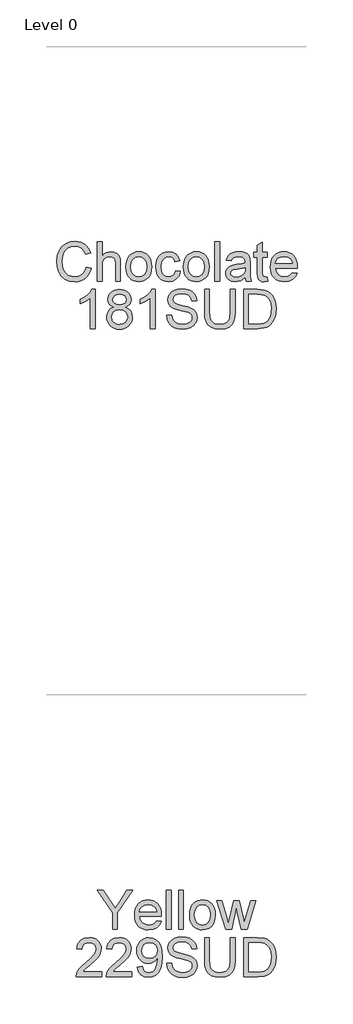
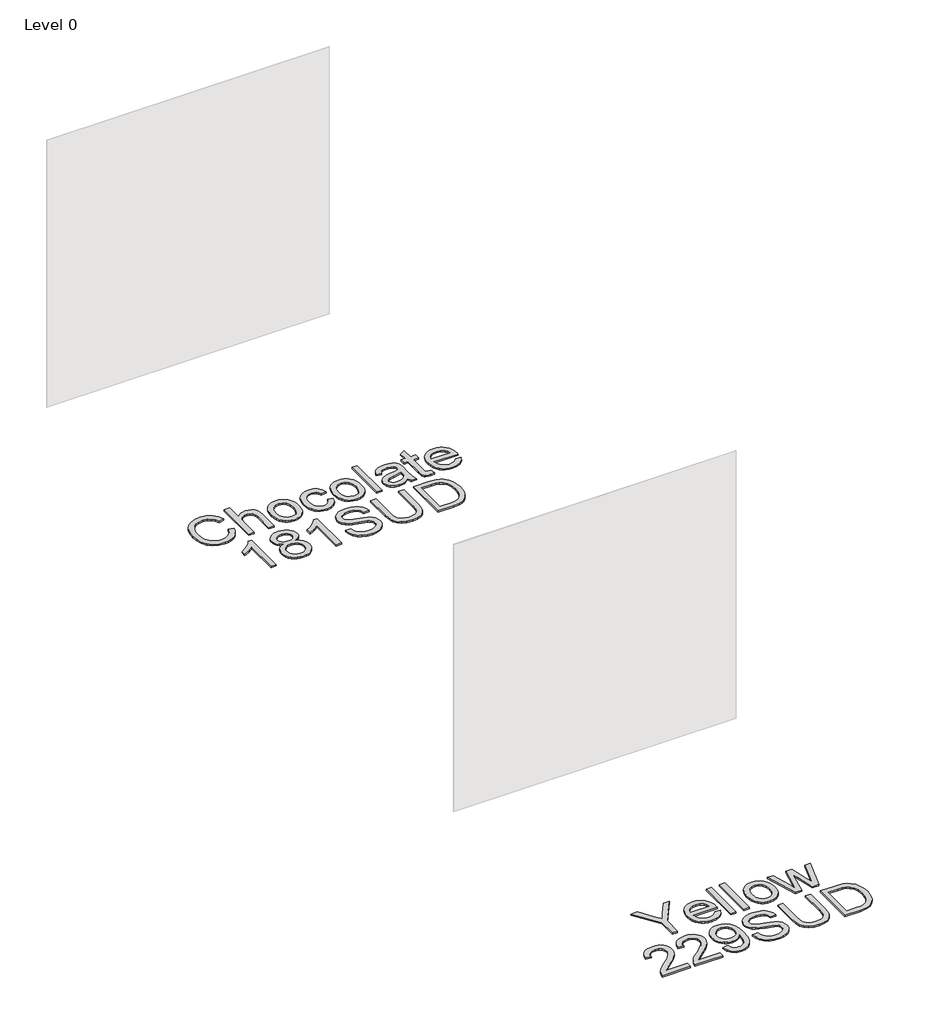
# One storey, part 9 of 37: 2 proxies.
"""IFC4 building model written with IfcOpenShell, lengths in millimetres."""

import ifcopenshell
import ifcopenshell.guid

model = None  # the IFC model being written
_history = None  # IfcOwnerHistory: only IFC2X3 demands one
_inside = {}  # id of a spatial element -> (the spatial element, [elements in it])
_under = {}  # id of a project, library or spatial element -> (it, [spatial elements below it])
_declared = {}  # id of a project -> (the project, [libraries it declares])
_typed = {}  # id of a type object -> (the type object, [elements of that type])
_made_of = {}  # id of a material, layer set ... -> (it, [elements and type objects made of it])


def new_model(schema):
    """Start an empty IFC model of exactly this schema.

    Asked for "IFC4X3", IfcOpenShell would pick the latest addendum, in which some entities
    have other attributes; the version numbers below select the first issue.
    IFC2X3 requires an IfcOwnerHistory on every rooted entity: one is made here for all.
    """
    global model, _history
    if schema == "IFC4X3":
        model = ifcopenshell.file(schema_version=(4, 3, 0, 0))
    else:
        model = ifcopenshell.file(schema=schema)
    _inside.clear()
    _under.clear()
    _declared.clear()
    _typed.clear()
    _made_of.clear()
    _history = None
    if model.schema == "IFC2X3":
        org = make("IfcOrganization", Name="unknown")
        user = make(
            "IfcPersonAndOrganization",
            ThePerson=make("IfcPerson", FamilyName="unknown"),
            TheOrganization=org,
        )
        app = make(
            "IfcApplication",
            ApplicationDeveloper=org,
            Version="unknown",
            ApplicationFullName="unknown",
            ApplicationIdentifier="unknown",
        )
        _history = make(
            "IfcOwnerHistory",
            OwningUser=user,
            OwningApplication=app,
            ChangeAction="ADDED",
            CreationDate=0,
        )
    return model


def make(cls, **values):
    """One entity of the class cls with the attributes given. An attribute that is None is left unset."""
    return model.create_entity(
        cls, **{name: value for name, value in values.items() if value is not None}
    )


def rooted(cls, **values):
    """An entity with a GlobalId (a new one), such as an element, a storey or a relation."""
    return make(cls, GlobalId=ifcopenshell.guid.new(), OwnerHistory=_history, **values)


def si_unit(unit_type, name, prefix=None):
    """IfcSIUnit, for example si_unit("LENGTHUNIT", "METRE", prefix="MILLI")."""
    return make("IfcSIUnit", UnitType=unit_type, Prefix=prefix, Name=name)


def assignment(units):
    """IfcUnitAssignment: the units of a project."""
    return None if units is None else make("IfcUnitAssignment", Units=units)


def point(xyz):
    """IfcCartesianPoint."""
    return None if xyz is None else make("IfcCartesianPoint", Coordinates=xyz)


def direction(xyz):
    """IfcDirection."""
    return None if xyz is None else make("IfcDirection", DirectionRatios=xyz)


def frame(location, z_axis=None, x_axis=None):
    """IfcAxis2Placement3D, a coordinate frame: its origin and axes. An axis left out is left unset."""
    return make(
        "IfcAxis2Placement3D",
        Location=point(location),
        Axis=direction(z_axis),
        RefDirection=direction(x_axis),
    )


def origin():
    """The frame at (0, 0, 0) with its axes left unset."""
    return frame((0.0, 0.0, 0.0))


def origin_with_axes():
    """The frame at (0, 0, 0) with the z axis (0, 0, 1) and the x axis (1, 0, 0) written out."""
    return frame((0.0, 0.0, 0.0), z_axis=(0.0, 0.0, 1.0), x_axis=(1.0, 0.0, 0.0))


def place(relative_to, where):
    """IfcLocalPlacement: puts the frame where relative to a parent placement (None: the world)."""
    return make(
        "IfcLocalPlacement", PlacementRelTo=relative_to, RelativePlacement=where
    )


def context(
    kind, dimensions, precision=None, world=None, true_north=None, identifier=None
):
    """IfcGeometricRepresentationContext, for example the 3D "Model" context."""
    return make(
        "IfcGeometricRepresentationContext",
        ContextIdentifier=identifier,
        ContextType=kind,
        CoordinateSpaceDimension=dimensions,
        Precision=precision,
        WorldCoordinateSystem=world,
        TrueNorth=true_north,
    )


def project(units=None, contexts=None):
    """IfcProject with its units and contexts."""
    return rooted(
        "IfcProject",
        Name="project",
        RepresentationContexts=contexts,
        UnitsInContext=assignment(units),
    )


def spatial(cls, under=None, at=None, **own):
    """A site, building, storey or space (cls), placed at a placement, below another one or the project."""
    s = rooted(cls, ObjectPlacement=at, **own)
    if under is not None:
        _under.setdefault(under.id(), (under, []))[1].append(s)
    return s


def polyline(points):
    """IfcPolyline through the points."""
    return make("IfcPolyline", Points=[point(p) for p in points])


def outline(outer, holes=None, kind="AREA"):
    """IfcArbitraryClosedProfileDef: a profile drawn as a closed curve; with holes, ...WithVoids."""
    if holes is None:
        return make("IfcArbitraryClosedProfileDef", ProfileType=kind, OuterCurve=outer)
    return make(
        "IfcArbitraryProfileDefWithVoids",
        ProfileType=kind,
        OuterCurve=outer,
        InnerCurves=holes,
    )


def extrude(swept, where, along, depth):
    """IfcExtrudedAreaSolid: the profile swept, set in the frame where, extruded along a direction by depth."""
    return make(
        "IfcExtrudedAreaSolid",
        SweptArea=swept,
        Position=where,
        ExtrudedDirection=direction(along),
        Depth=depth,
    )


def shape(context_of_items, identifier, shape_type, items):
    """IfcShapeRepresentation: the items that make up one representation, for example the "Body"."""
    return make(
        "IfcShapeRepresentation",
        ContextOfItems=context_of_items,
        RepresentationIdentifier=identifier,
        RepresentationType=shape_type,
        Items=items,
    )


def made_of(thing, what):
    """Note that an element or type object is made of a material, layer set ...; save() writes the relation."""
    if what is not None:
        _made_of.setdefault(what.id(), (what, []))[1].append(thing)
    return thing


def element(
    cls,
    number,
    at=None,
    inside=None,
    cuts=None,
    type_object=None,
    material=None,
    context=None,
    identifier="Body",
    shape_type=None,
    held_by="IfcProductDefinitionShape",
    body=None,
    shapes=None,
    **own,
):
    """One element of the class cls, such as IfcWall. Its Tag is "e" and its number.

    at: its placement. inside: the storey or other place that contains it. cuts: it is an
    opening in that element (IfcRelVoidsElement). A single representation is given by context,
    identifier, shape_type and body (its items); several are given by shapes. held_by: the class
    of the entity that holds the representations. save() writes the other relations.
    """
    e = rooted(cls, Tag="e%d" % number, ObjectPlacement=at, **own)
    if body is not None:
        shapes = [shape(context, identifier, shape_type, body)]
    if shapes is not None:
        e.Representation = make(held_by, Representations=shapes)
    if inside is not None:
        _inside.setdefault(inside.id(), (inside, []))[1].append(e)
    if cuts is not None:
        rooted(
            "IfcRelVoidsElement", RelatingBuildingElement=cuts, RelatedOpeningElement=e
        )
    if type_object is not None:
        _typed.setdefault(type_object.id(), (type_object, []))[1].append(e)
    return made_of(e, material)


def aggregate(whole, parts):
    """IfcRelAggregates: a whole, such as a stair, and the parts it consists of."""
    return rooted("IfcRelAggregates", RelatingObject=whole, RelatedObjects=parts)


def save(model, path):
    """Write the relations noted so far, then the file.

    IfcRelAggregates (storeys below a building ...), IfcRelContainedInSpatialStructure (elements
    in a storey), IfcRelDefinesByType, IfcRelAssociatesMaterial and IfcRelDeclares: one each for
    every whole, place, type object, material and project.
    """
    for whole, parts in _under.values():
        aggregate(whole, parts)
    for where, things in _inside.values():
        rooted(
            "IfcRelContainedInSpatialStructure",
            RelatedElements=things,
            RelatingStructure=where,
        )
    for kind, things in _typed.values():
        rooted("IfcRelDefinesByType", RelatedObjects=things, RelatingType=kind)
    for what, things in _made_of.values():
        rooted("IfcRelAssociatesMaterial", RelatedObjects=things, RelatingMaterial=what)
    for by, libraries in _declared.values():
        rooted("IfcRelDeclares", RelatingContext=by, RelatedDefinitions=libraries)
    model.write(path)


model = new_model("IFC4")

# Units and contexts
model_context = context("Model", 3, world=origin())
ifc_project = project(units=[si_unit("LENGTHUNIT", "METRE", prefix="MILLI")], contexts=[model_context])

# Site, building, storey
site = spatial("IfcSite", under=ifc_project)
building = spatial("IfcBuilding", under=site)
storey = spatial("IfcBuildingStorey", under=building, Name="Level 0", Elevation=0.0)

# Proxies
placement = place(None, origin())
element("IfcBuildingElementProxy", 1, Name="300mm Arial", ObjectType="300mm Arial", at=placement, inside=storey, context=model_context, shape_type="SweptSolid", body=[
    extrude(outline(polyline([(-5145.2192632, -16875.733257), (-5107.5481469, -16885.4453417), (-5115.0023558, -16908.872527), (-5124.9305712, -16929.3428607), (-5137.3327929, -16946.856343), (-5152.2090211, -16961.4129737), (-5169.2235634, -16972.856403), (-5188.0407274, -16981.0302811), (-5208.6605133, -16985.9346079), (-5231.0829209, -16987.5693835), (-5274.7781049, -16982.6213707), (-5309.478574, -16967.7773322), (-5336.0764423, -16943.5523028), (-5355.4638234, -16910.4613173), (-5367.3004266, -16871.5577963), (-5371.245961, -16829.8951604), (-5366.7853918, -16785.9516561), (-5353.4036843, -16748.0046283), (-5331.7998141, -16717.2588905), (-5302.6727571, -16694.9192564), (-5268.1286378, -16681.3168196), (-5230.2735805, -16676.782674), (-5188.9696295, -16682.6503918), (-5171.0008933, -16689.9850391), (-5154.8209833, -16700.2535453), (-5140.6966139, -16713.1845974), (-5128.8944997, -16728.5068825), (-5112.2570364, -16766.3251516), (-5149.9281527, -16775.3014723), (-5162.9879636, -16747.8298843), (-5180.8302403, -16728.9851291), (-5203.6757122, -16718.086625), (-5231.7451085, -16714.4537903), (-5264.1003299, -16718.4820981), (-5290.6798041, -16730.5670217), (-5310.8489345, -16749.439368), (-5323.9731247, -16773.8299443), (-5331.1744147, -16801.4026999), (-5333.5748447, -16829.821584), (-5330.7329563, -16864.6232207), (-5322.2072911, -16894.7159679), (-5307.6759523, -16918.9501944), (-5286.8170431, -16936.1762688), (-5261.8102645, -16946.4677676), (-5234.8353172, -16949.8982672), (-5203.3906037, -16945.2261659), (-5177.1882086, -16931.2098619), (-5157.4053543, -16907.996508), (-5145.2192632, -16875.733257)])), origin_with_axes(), (0.0, 0.0, 1.0), 10.0),
    extrude(outline(polyline([(-5060.4592515, -16982.860494), (-5060.4592515, -16681.4915635), (-5022.7881352, -16681.4915635), (-5022.7881352, -16792.2976205), (-5008.9511737, -16776.7821973), (-4993.4127579, -16765.6997522), (-4976.1728879, -16759.0502852), (-4957.2315637, -16756.8337961), (-4934.4780623, -16759.2526203), (-4914.9251342, -16766.5090926), (-4899.5292727, -16778.0329961), (-4889.246971, -16793.2541137), (-4883.4528295, -16814.1682051), (-4881.5214491, -16842.7710302), (-4881.5214491, -16982.860494), (-4919.1925654, -16982.860494), (-4919.1925654, -16846.6705794), (-4922.1908036, -16823.0893435), (-4931.1855184, -16806.9393239), (-4945.680069, -16797.6135153), (-4965.1778148, -16794.5049125), (-4981.0979081, -16796.6018398), (-4996.0431142, -16802.8926219), (-5008.4223433, -16812.7702535), (-5016.6445059, -16825.6277292), (-5021.2522279, -16842.7158479), (-5022.7881352, -16865.2854083), (-5022.7881352, -16982.860494), (-5060.4592515, -16982.860494)])), origin_with_axes(), (0.0, 0.0, 1.0), 10.0),
    extrude(outline(polyline([(-4839.1414432, -16872.2015898), (-4837.1042967, -16843.5389839), (-4830.992857, -16818.8403064), (-4820.8071243, -16798.1055575), (-4806.5470984, -16781.334737), (-4792.1905036, -16770.6155754), (-4776.3439866, -16762.9590314), (-4759.0075476, -16758.3651049), (-4740.1811865, -16756.8337961), (-4719.398153, -16758.698498), (-4700.6062809, -16764.2926036), (-4683.80557, -16773.6161129), (-4668.9960204, -16786.669026), (-4656.9087976, -16803.0098843), (-4648.2750671, -16822.1972296), (-4643.0948287, -16844.2310619), (-4641.3680826, -16869.1113811), (-4644.4215032, -16907.1687735), (-4653.5817648, -16936.1394806), (-4668.5821532, -16957.8353213), (-4689.1559538, -16974.0681143), (-4713.5925153, -16984.1940662), (-4740.1811865, -16987.5693835), (-4761.2677226, -16985.7115794), (-4780.2343387, -16980.1381672), (-4797.0810349, -16970.8491468), (-4811.807811, -16957.8445183), (-4823.7662751, -16941.3450108), (-4832.3080352, -16921.5713536), (-4837.4330912, -16898.5235466), (-4839.1414432, -16872.2015898)]), holes=[polyline([(-4801.4703269, -16872.1280134), (-4797.1109253, -16906.2214773), (-4784.0327203, -16930.5108861), (-4764.3510336, -16945.0514219), (-4740.1811865, -16949.8982672), (-4716.121704, -16945.0238308), (-4696.4768055, -16930.4005215), (-4683.3986006, -16905.789216), (-4679.0391989, -16870.950791), (-4683.4261917, -16837.8506085), (-4696.5871701, -16813.8922936), (-4716.2596598, -16799.3517577), (-4740.1811865, -16794.5049125), (-4764.3510336, -16799.3333636), (-4784.0327203, -16813.8187172), (-4797.1109253, -16838.0529436), (-4801.4703269, -16872.1280134)])]), origin_with_axes(), (0.0, 0.0, 1.0), 10.0),
    extrude(outline(polyline([(-4457.7213906, -16902.8093718), (-4420.0502743, -16907.5182614), (-4430.5533053, -16941.0231141), (-4450.2901743, -16966.3425924), (-4477.4030774, -16982.2626857), (-4510.0342103, -16987.5693835), (-4531.1621332, -16985.7184772), (-4550.1057567, -16980.1657584), (-4566.8650808, -16970.9112269), (-4581.4401056, -16957.9548829), (-4593.2376213, -16941.5404481), (-4601.6644183, -16921.9116444), (-4606.7204964, -16899.0684718), (-4608.4058558, -16873.0109302), (-4605.5271792, -16839.4876834), (-4596.8911494, -16810.4342028), (-4582.3598106, -16786.9725286), (-4561.7952071, -16770.2247008), (-4537.1930986, -16760.1815223), (-4510.5492451, -16756.8337961), (-4478.7182555, -16761.4323211), (-4453.2700185, -16775.2278959), (-4435.0138745, -16797.4847566), (-4424.7591638, -16827.4671392), (-4462.4302802, -16832.1760288), (-4469.2636882, -16815.7409006), (-4479.9046749, -16803.9594797), (-4493.7646291, -16796.8685543), (-4510.2549395, -16794.5049125), (-4534.5995306, -16799.1586197), (-4553.9225324, -16813.1197414), (-4566.5316877, -16837.1424357), (-4570.7347395, -16871.9808606), (-4566.6236582, -16907.2883351), (-4554.2904143, -16931.3938029), (-4535.3169004, -16945.2721511), (-4511.2850091, -16949.8982672), (-4491.7780663, -16947.0103936), (-4475.7843966, -16938.3467726), (-4464.1501285, -16923.6866751), (-4457.7213906, -16902.8093718)])), origin_with_axes(), (0.0, 0.0, 1.0), 10.0),
    extrude(outline(polyline([(-4396.5058266, -16872.2015898), (-4394.4686801, -16843.5389839), (-4388.3572404, -16818.8403064), (-4378.1715077, -16798.1055575), (-4363.9114818, -16781.334737), (-4349.554887, -16770.6155754), (-4333.70837, -16762.9590314), (-4316.371931, -16758.3651049), (-4297.5455699, -16756.8337961), (-4276.7625364, -16758.698498), (-4257.9706643, -16764.2926036), (-4241.1699534, -16773.6161129), (-4226.3604038, -16786.669026), (-4214.273181, -16803.0098843), (-4205.6394505, -16822.1972296), (-4200.4592121, -16844.2310619), (-4198.732466, -16869.1113811), (-4201.7858866, -16907.1687735), (-4210.9461483, -16936.1394806), (-4225.9465366, -16957.8353213), (-4246.5203372, -16974.0681143), (-4270.9568987, -16984.1940662), (-4297.5455699, -16987.5693835), (-4318.632106, -16985.7115794), (-4337.5987221, -16980.1381672), (-4354.4454183, -16970.8491468), (-4369.1721944, -16957.8445183), (-4381.1306585, -16941.3450108), (-4389.6724186, -16921.5713536), (-4394.7974746, -16898.5235466), (-4396.5058266, -16872.2015898)]), holes=[polyline([(-4358.8347103, -16872.1280134), (-4354.4753087, -16906.2214773), (-4341.3971037, -16930.5108861), (-4321.715417, -16945.0514219), (-4297.5455699, -16949.8982672), (-4273.4860874, -16945.0238308), (-4253.8411889, -16930.4005215), (-4240.762984, -16905.789216), (-4236.4035823, -16870.950791), (-4240.7905751, -16837.8506085), (-4253.9515535, -16813.8922936), (-4273.6240432, -16799.3517577), (-4297.5455699, -16794.5049125), (-4321.715417, -16799.3333636), (-4341.3971037, -16813.8187172), (-4354.4753087, -16838.0529436), (-4358.8347103, -16872.1280134)])]), origin_with_axes(), (0.0, 0.0, 1.0), 10.0),
    extrude(outline(polyline([(-4156.3524602, -16982.860494), (-4156.3524602, -16681.4915635), (-4118.6813439, -16681.4915635), (-4118.6813439, -16982.860494), (-4156.3524602, -16982.860494)])), origin_with_axes(), (0.0, 0.0, 1.0), 10.0),
    extrude(outline(polyline([(-3920.9079833, -16954.6071568), (-3938.9066099, -16970.0398064), (-3957.4386654, -16980.1381672), (-3976.9272141, -16985.7115794), (-3997.7953202, -16987.5693835), (-4029.276822, -16983.0996173), (-4052.4993729, -16969.6903186), (-4066.8191796, -16949.3280501), (-4071.5924485, -16923.9993748), (-4069.7898267, -16908.3827841), (-4064.3819614, -16894.2009331), (-4056.0402371, -16882.0608273), (-4045.4360386, -16872.5694718), (-4019.0588996, -16860.2086368), (-3986.4645548, -16854.5432541), (-3947.9473099, -16848.5835657), (-3921.1287124, -16841.5938078), (-3920.9079833, -16833.2060983), (-3923.5015513, -16816.3938912), (-3931.2822555, -16805.3942195), (-3948.6830739, -16797.2272392), (-3972.9264974, -16794.5049125), (-3995.3672991, -16796.3167313), (-4011.0390721, -16801.7521878), (-4021.726044, -16811.8045633), (-4029.2124426, -16827.4671392), (-4066.8835589, -16822.7582497), (-4060.3444565, -16802.156858), (-4050.5863866, -16785.9700502), (-4036.6988412, -16773.590821), (-4017.7713126, -16764.4121652), (-3994.622338, -16758.7283884), (-3968.070455, -16756.8337961), (-3942.6038239, -16758.5076592), (-3922.4162994, -16763.5292485), (-3907.1951819, -16771.0800264), (-3896.6277716, -16780.3414556), (-3889.6196196, -16791.7917827), (-3885.0762769, -16805.9092543), (-3883.2368669, -16838.8714811), (-3883.2368669, -16885.7396473), (-3881.3238806, -16951.1858542), (-3873.8190879, -16982.860494), (-3911.4902042, -16982.860494), (-3920.9079833, -16954.6071568)]), holes=[polyline([(-3920.9079833, -16879.2649241), (-3981.6820889, -16890.8164188), (-4014.0924926, -16896.9232599), (-4028.7709842, -16906.8560738), (-4033.9213322, -16921.3506244), (-4031.116232, -16932.5526311), (-4022.7009313, -16941.7312869), (-4008.8593712, -16947.8565221), (-3989.7754927, -16949.8982672), (-3969.541983, -16947.64499), (-3951.662918, -16940.8851583), (-3937.1683674, -16930.9247533), (-3927.0884008, -16919.069756), (-3922.6186345, -16906.8560738), (-3921.1287124, -16889.933502), (-3920.9079833, -16879.2649241)])]), origin_with_axes(), (0.0, 0.0, 1.0), 10.0),
    extrude(outline(polyline([(-3751.3879599, -16951.4433716), (-3746.6790703, -16983.96414), (-3774.8588312, -16987.5693835), (-3792.9402312, -16986.005885), (-3806.4231064, -16981.3153896), (-3815.95125, -16974.0865084), (-3822.1684557, -16964.9078526), (-3825.5897583, -16949.1441091), (-3826.7301925, -16922.1599648), (-3826.7301925, -16799.213802), (-3854.9835297, -16799.213802), (-3854.9835297, -16761.5426857), (-3826.7301925, -16761.5426857), (-3826.7301925, -16707.758338), (-3789.0590762, -16685.6118419), (-3789.0590762, -16761.5426857), (-3751.3879599, -16761.5426857), (-3751.3879599, -16799.213802), (-3789.0590762, -16799.213802), (-3789.0590762, -16921.0563188), (-3787.0725134, -16940.4804881), (-3780.6345785, -16947.3598814), (-3767.7954969, -16949.8982672), (-3751.3879599, -16951.4433716)])), origin_with_axes(), (0.0, 0.0, 1.0), 10.0),
    extrude(outline(polyline([(-3558.7649472, -16916.9360404), (-3521.8295949, -16921.64493), (-3535.1377261, -16949.4752029), (-3556.3737142, -16970.2789297), (-3585.0593128, -16983.2467701), (-3620.7162752, -16987.5693835), (-3644.0905775, -16985.7046817), (-3664.9172969, -16980.1105761), (-3683.1964335, -16970.7870668), (-3698.9279874, -16957.7341537), (-3711.5785295, -16941.3151204), (-3720.614631, -16921.8932503), (-3726.0362919, -16899.4685435), (-3727.8435122, -16874.0409998), (-3726.0178978, -16847.7512327), (-3720.5410546, -16824.5792656), (-3711.4129826, -16804.5250983), (-3698.6336818, -16787.5887309), (-3682.9435147, -16774.133447), (-3665.0828438, -16764.5225298), (-3645.0516692, -16758.7559796), (-3622.8499908, -16756.8337961), (-3601.363383, -16758.751381), (-3581.9323158, -16764.5041357), (-3564.5567894, -16774.0920602), (-3549.2368035, -16787.5151545), (-3536.731115, -16804.4147337), (-3527.7984803, -16824.4321128), (-3522.4388994, -16847.5672917), (-3520.6523725, -16873.8202706), (-3520.8731017, -16883.9738137), (-3690.1723959, -16883.9738137), (-3683.6516875, -16912.1719686), (-3668.5041464, -16932.902119), (-3646.6427588, -16945.6492302), (-3619.9805112, -16949.8982672), (-3599.9309425, -16947.9300985), (-3583.0451589, -16942.0255925), (-3569.3231605, -16931.8168672), (-3558.7649472, -16916.9360404)]), holes=[polyline([(-3690.1723959, -16846.3026974), (-3558.3234888, -16846.3026974), (-3563.4186544, -16826.4002814), (-3573.4066506, -16812.1632482), (-3595.3692057, -16798.9194964), (-3622.9971436, -16794.5049125), (-3648.3901983, -16798.0273826), (-3669.3870632, -16808.5947929), (-3683.9827813, -16825.0667092), (-3690.1723959, -16846.3026974)])]), origin_with_axes(), (0.0, 0.0, 1.0), 10.0),
    extrude(outline(polyline([(-5076.9403649, -17348.7849475), (-5114.6114812, -17348.7849475), (-5114.6114812, -17113.9290818), (-5150.2960347, -17139.3497277), (-5189.9537138, -17158.3692268), (-5189.9537138, -17122.7582497), (-5160.3668044, -17106.6634124), (-5134.7346263, -17087.5151545), (-5114.5287078, -17067.1528861), (-5101.2205766, -17047.4160171), (-5076.9403649, -17047.4160171), (-5076.9403649, -17348.7849475)])), origin_with_axes(), (0.0, 0.0, 1.0), 10.0),
    extrude(outline(polyline([(-4932.58347, -17182.7965913), (-4952.7526004, -17172.8637774), (-4966.9068601, -17159.3992964), (-4975.2669785, -17142.6790597), (-4978.0536846, -17122.9789789), (-4976.5361714, -17107.6153071), (-4971.9836317, -17093.5300252), (-4964.3960655, -17080.7231332), (-4953.7734729, -17069.1946312), (-4940.6262901, -17059.6664875), (-4925.4649534, -17052.8606706), (-4889.0998182, -17047.4160171), (-4852.5139537, -17052.9894293), (-4837.1870701, -17059.9561946), (-4823.8375522, -17069.709666), (-4813.0218216, -17081.4634957), (-4805.2962997, -17094.4313361), (-4800.6609865, -17108.613187), (-4799.1158821, -17124.0090485), (-4801.8658001, -17143.0745329), (-4810.1155538, -17159.509661), (-4823.9571139, -17172.8913686), (-4843.4824508, -17182.7965913), (-4820.296688, -17194.7435591), (-4803.4201015, -17212.3375155), (-4793.1286027, -17234.732332), (-4789.6981031, -17261.0818799), (-4791.3995573, -17279.8714528), (-4796.50392, -17297.0975272), (-4805.0111911, -17312.7601031), (-4816.9213707, -17326.8591806), (-4831.6090594, -17338.5118428), (-4848.4488577, -17346.8351729), (-4867.4407657, -17351.829171), (-4888.5847834, -17353.4938371), (-4909.728801, -17351.8222732), (-4928.720709, -17346.8075818), (-4945.5605074, -17338.4497627), (-4960.248196, -17326.748816), (-4972.1583756, -17312.5508703), (-4980.6656468, -17296.702054), (-4985.7700094, -17279.2023674), (-4987.4714637, -17260.0518103), (-4983.9030083, -17232.6813898), (-4973.1976423, -17210.1670117), (-4955.9071885, -17193.2812282), (-4932.58347, -17182.7965913)]), holes=[polyline([(-4940.3825683, -17124.0826249), (-4937.0440392, -17140.52695), (-4927.0284519, -17153.6603373), (-4910.6301119, -17162.268776), (-4888.143325, -17165.1382555), (-4866.1807699, -17162.2871701), (-4850.0307503, -17153.7339137), (-4840.0979364, -17141.0419848), (-4836.7869984, -17125.774882), (-4840.208301, -17109.9283651), (-4850.4722087, -17096.822569), (-4866.8429575, -17088.0209923), (-4888.5847834, -17085.0871334), (-4910.464565, -17087.9566129), (-4926.8077227, -17096.5650516), (-4936.9888569, -17109.1834041), (-4940.3825683, -17124.0826249)]), polyline([(-4949.8003474, -17258.7274351), (-4943.5095652, -17287.0911369), (-4934.799959, -17299.2588339), (-4921.2527045, -17308.317928), (-4905.0291086, -17313.9465226), (-4888.2904778, -17315.8227207), (-4862.6491027, -17311.8771864), (-4843.4088744, -17300.0405832), (-4831.3791331, -17282.1155329), (-4827.3692194, -17259.9046575), (-4831.5078918, -17237.316703), (-4843.9239092, -17218.9961796), (-4863.6055959, -17206.8560738), (-4889.5412766, -17202.8093718), (-4914.8239667, -17206.8008915), (-4933.871057, -17218.7754504), (-4945.8180248, -17236.7464859), (-4949.8003474, -17258.7274351)])]), origin_with_axes(), (0.0, 0.0, 1.0), 10.0),
    extrude(outline(polyline([(-4615.4691901, -17348.7849475), (-4653.1403065, -17348.7849475), (-4653.1403065, -17113.9290818), (-4688.82486, -17139.3497277), (-4728.4825391, -17158.3692268), (-4728.4825391, -17122.7582497), (-4698.8956296, -17106.6634124), (-4673.2634516, -17087.5151545), (-4653.057533, -17067.1528861), (-4639.7494018, -17047.4160171), (-4615.4691901, -17047.4160171), (-4615.4691901, -17348.7849475)])), origin_with_axes(), (0.0, 0.0, 1.0), 10.0),
    extrude(outline(polyline([(-4526.0002889, -17245.1893777), (-4488.3291726, -17245.1893777), (-4484.0065592, -17266.0942721), (-4476.1890668, -17282.8972822), (-4463.9937786, -17296.2330045), (-4446.537778, -17306.7360355), (-4425.2006222, -17313.5510494), (-4401.361869, -17315.8227207), (-4380.3742011, -17314.1028724), (-4361.9984955, -17308.9433274), (-4347.1084717, -17300.7763471), (-4336.5778496, -17290.0341929), (-4330.3146586, -17277.700949), (-4328.2269283, -17264.7606998), (-4329.7904268, -17252.1515444), (-4334.4809222, -17241.2530403), (-4344.0090659, -17231.9548229), (-4360.0855091, -17224.1465276), (-4414.9367146, -17209.7623415), (-4450.9431649, -17200.2433949), (-4473.9817748, -17191.1843008), (-4492.7345595, -17178.510766), (-4506.0242966, -17163.1516928), (-4513.9429565, -17145.4381747), (-4516.5825098, -17125.7013056), (-4513.3175571, -17103.637583), (-4503.522699, -17083.0637824), (-4487.4554529, -17065.6261758), (-4465.3733361, -17052.9710352), (-4438.8674384, -17045.2731044), (-4409.5288492, -17042.7071275), (-4377.7438449, -17045.3926661), (-4349.931966, -17053.4492818), (-4327.0864941, -17066.7114277), (-4310.2007105, -17085.013557), (-4299.5137386, -17107.2152354), (-4295.2647015, -17132.1760288), (-4332.9358179, -17132.1760288), (-4339.8519994, -17109.6984389), (-4354.2729736, -17093.4748429), (-4376.8057458, -17083.6523936), (-4408.0573213, -17080.3782438), (-4440.0446607, -17083.6156054), (-4461.9888218, -17093.3276901), (-4474.6807506, -17107.6199056), (-4478.9113935, -17124.5976597), (-4475.9131553, -17139.0738162), (-4466.9184405, -17150.7172813), (-4445.6548612, -17161.1283418), (-4405.4085709, -17171.7601314), (-4363.8746936, -17181.8584922), (-4338.7483534, -17190.669266), (-4317.2732419, -17204.3360821), (-4302.2912477, -17221.2034716), (-4293.4896709, -17241.0874934), (-4290.555812, -17263.8042066), (-4293.9311293, -17287.0267576), (-4304.0570812, -17308.869751), (-4320.5198005, -17327.668521), (-4342.9054199, -17341.7584014), (-4369.8251849, -17350.5599781), (-4399.890341, -17353.4938371), (-4436.7981021, -17350.3300519), (-4467.1759579, -17340.8386964), (-4491.3733961, -17324.9829824), (-4509.7399047, -17302.7261217), (-4521.5305227, -17275.6132187), (-4526.0002889, -17245.1893777)])), origin_with_axes(), (0.0, 0.0, 1.0), 10.0),
    extrude(outline(polyline([(-4036.2757769, -17047.4160171), (-3998.6046606, -17047.4160171), (-3998.6046606, -17221.277048), (-4001.1614405, -17261.9923878), (-4008.8317801, -17293.3451308), (-4023.1607838, -17317.533372), (-4045.693556, -17336.7552063), (-4076.485279, -17349.3091794), (-4115.5911351, -17353.4938371), (-4153.8416655, -17349.8518053), (-4184.4218564, -17338.92571), (-4207.3409047, -17321.0926303), (-4222.6080075, -17296.7296452), (-4231.188855, -17264.052527), (-4234.0491375, -17221.277048), (-4234.0491375, -17047.4160171), (-4196.3780212, -17047.4160171), (-4196.3780212, -17219.9526728), (-4194.5202172, -17253.8070134), (-4188.9468049, -17277.3790523), (-4178.8484442, -17293.7038158), (-4163.4157945, -17305.8163305), (-4143.2926493, -17313.3211232), (-4119.1228023, -17315.8227207), (-4080.8078925, -17310.8747079), (-4066.4650932, -17304.6896919), (-4055.3320643, -17296.0306694), (-4046.9949386, -17283.8537754), (-4041.0398488, -17267.1151446), (-4036.2757769, -17219.9526728), (-4036.2757769, -17047.4160171)])), origin_with_axes(), (0.0, 0.0, 1.0), 10.0),
    extrude(outline(polyline([(-3932.6802071, -17348.7849475), (-3932.6802071, -17047.4160171), (-3828.7167553, -17047.4160171), (-3774.9324076, -17051.7570246), (-3750.9097133, -17060.12634), (-3730.6394153, -17073.3149095), (-3709.7989003, -17096.270746), (-3694.9548618, -17124.8183889), (-3686.0705116, -17158.406015), (-3683.1090616, -17196.4818015), (-3685.1140184, -17228.8278259), (-3691.1288891, -17257.2926953), (-3700.2891507, -17281.5269217), (-3711.7302808, -17301.1810173), (-3724.9004562, -17316.6964405), (-3739.247854, -17328.5146496), (-3755.7197704, -17337.2794381), (-3775.2635014, -17343.6345996), (-3823.7135601, -17348.7849475), (-3932.6802071, -17348.7849475)]), holes=[polyline([(-3895.0090908, -17311.1138312), (-3828.3488733, -17311.1138312), (-3800.7761177, -17309.7526678), (-3779.8620263, -17305.6691777), (-3764.0798887, -17299.1024841), (-3751.9029947, -17290.2917103), (-3738.8155927, -17273.9853408), (-3728.9839464, -17252.8781114), (-3722.83112, -17226.8780514), (-3720.7801779, -17195.8931903), (-3724.7992887, -17154.8375597), (-3736.8566211, -17124.5240833), (-3754.6713067, -17103.7019623), (-3775.9624772, -17091.1203981), (-3797.6307267, -17086.5954496), (-3829.3789429, -17085.0871334), (-3895.0090908, -17085.0871334), (-3895.0090908, -17311.1138312)])]), origin_with_axes(), (0.0, 0.0, 1.0), 10.0),
])
element("IfcBuildingElementProxy", 2, Name="300mm Arial", ObjectType="300mm Arial", at=placement, inside=storey, context=model_context, shape_type="SweptSolid", body=[
    extrude(outline(polyline([(-4942.7370131, -21972.860494), (-4942.7370131, -21845.2054417), (-5060.4592515, -21671.4915635), (-5016.0191065, -21671.4915635), (-4953.1848617, -21764.2714027), (-4921.0319753, -21811.5810273), (-4888.8055126, -21760.8868884), (-4831.7838033, -21671.4915635), (-4787.3436583, -21671.4915635), (-4905.0658967, -21845.2054417), (-4905.0658967, -21972.860494), (-4942.7370131, -21972.860494)])), origin_with_axes(), (0.0, 0.0, 1.0), 10.0),
    extrude(outline(polyline([(-4604.1384247, -21906.9360404), (-4567.2030724, -21911.64493), (-4580.5112036, -21939.4752029), (-4601.7471917, -21960.2789297), (-4630.4327903, -21973.2467701), (-4666.0897527, -21977.5693835), (-4689.464055, -21975.7046817), (-4710.2907744, -21970.1105761), (-4728.569911, -21960.7870668), (-4744.3014649, -21947.7341537), (-4756.952007, -21931.3151204), (-4765.9881085, -21911.8932503), (-4771.4097694, -21889.4685435), (-4773.2169897, -21864.0409998), (-4771.3913753, -21837.7512327), (-4765.9145321, -21814.5792656), (-4756.7864601, -21794.5250983), (-4744.0071593, -21777.5887309), (-4728.3169922, -21764.133447), (-4710.4563213, -21754.5225298), (-4690.4251467, -21748.7559796), (-4668.2234683, -21746.8337961), (-4646.7368605, -21748.751381), (-4627.3057933, -21754.5041357), (-4609.9302669, -21764.0920602), (-4594.610281, -21777.5151545), (-4582.1045924, -21794.4147337), (-4573.1719578, -21814.4321128), (-4567.8123769, -21837.5672917), (-4566.02585, -21863.8202706), (-4566.2465792, -21873.9738137), (-4735.5458734, -21873.9738137), (-4729.025165, -21902.1719686), (-4713.8776239, -21922.902119), (-4692.0162363, -21935.6492302), (-4665.3539887, -21939.8982672), (-4645.30442, -21937.9300985), (-4628.4186364, -21932.0255925), (-4614.696638, -21921.8168672), (-4604.1384247, -21906.9360404)]), holes=[polyline([(-4735.5458734, -21836.3026974), (-4603.6969663, -21836.3026974), (-4608.7921319, -21816.4002814), (-4618.7801281, -21802.1632482), (-4640.7426832, -21788.9194964), (-4668.3706211, -21784.5049125), (-4693.7636758, -21788.0273826), (-4714.7605406, -21798.5947929), (-4729.3562588, -21815.0667092), (-4735.5458734, -21836.3026974)])]), origin_with_axes(), (0.0, 0.0, 1.0), 10.0),
    extrude(outline(polyline([(-4528.3547337, -21972.860494), (-4528.3547337, -21671.4915635), (-4490.6836174, -21671.4915635), (-4490.6836174, -21972.860494), (-4528.3547337, -21972.860494)])), origin_with_axes(), (0.0, 0.0, 1.0), 10.0),
    extrude(outline(polyline([(-4434.1769429, -21972.860494), (-4434.1769429, -21671.4915635), (-4396.5058266, -21671.4915635), (-4396.5058266, -21972.860494), (-4434.1769429, -21972.860494)])), origin_with_axes(), (0.0, 0.0, 1.0), 10.0),
    extrude(outline(polyline([(-4349.4169312, -21862.2015898), (-4347.3797847, -21833.5389839), (-4341.268345, -21808.8403064), (-4331.0826123, -21788.1055575), (-4316.8225865, -21771.334737), (-4302.4659916, -21760.6155754), (-4286.6194747, -21752.9590314), (-4269.2830356, -21748.3651049), (-4250.4566745, -21746.8337961), (-4229.6736411, -21748.698498), (-4210.8817689, -21754.2926036), (-4194.081058, -21763.6161129), (-4179.2715085, -21776.669026), (-4167.1842857, -21793.0098843), (-4158.5505551, -21812.1972296), (-4153.3703167, -21834.2310619), (-4151.6435706, -21859.1113811), (-4154.6969912, -21897.1687735), (-4163.8572529, -21926.1394806), (-4178.8576412, -21947.8353213), (-4199.4314418, -21964.0681143), (-4223.8680033, -21974.1940662), (-4250.4566745, -21977.5693835), (-4271.5432106, -21975.7115794), (-4290.5098268, -21970.1381672), (-4307.3565229, -21960.8491468), (-4322.083299, -21947.8445183), (-4334.0417631, -21931.3450108), (-4342.5835232, -21911.5713536), (-4347.7085792, -21888.5235466), (-4349.4169312, -21862.2015898)]), holes=[polyline([(-4311.7458149, -21862.1280134), (-4307.3864133, -21896.2214773), (-4294.3082084, -21920.5108861), (-4274.6265216, -21935.0514219), (-4250.4566745, -21939.8982672), (-4226.397192, -21935.0238308), (-4206.7522935, -21920.4005215), (-4193.6740886, -21895.789216), (-4189.3146869, -21860.950791), (-4193.7016797, -21827.8506085), (-4206.8626581, -21803.8922936), (-4226.5351478, -21789.3517577), (-4250.4566745, -21784.5049125), (-4274.6265216, -21789.3333636), (-4294.3082084, -21803.8187172), (-4307.3864133, -21828.0529436), (-4311.7458149, -21862.1280134)])]), origin_with_axes(), (0.0, 0.0, 1.0), 10.0),
    extrude(outline(polyline([(-4072.5489417, -21972.860494), (-4139.8713468, -21751.5426857), (-4100.7287025, -21751.5426857), (-4062.5425514, -21880.669266), (-4051.1382095, -21926.8016682), (-4041.7940069, -21882.3615232), (-4011.4069541, -21751.5426857), (-3966.5253507, -21751.5426857), (-3936.2854507, -21881.9936412), (-3927.9713176, -21922.2399314), (-3916.0519409, -21879.7863492), (-3877.7922134, -21751.5426857), (-3838.5024163, -21751.5426857), (-3906.3398562, -21972.860494), (-3951.8836472, -21972.860494), (-3980.7991721, -21843.0717261), (-3989.1868816, -21802.6047066), (-4026.4901159, -21972.860494), (-4072.5489417, -21972.860494)])), origin_with_axes(), (0.0, 0.0, 1.0), 10.0),
    extrude(outline(polyline([(-5025.14258, -22301.1138312), (-5025.14258, -22338.7849475), (-5222.9159406, -22338.7849475), (-5218.8692386, -22312.8124787), (-5209.5802183, -22292.5145896), (-5195.9869785, -22272.8237058), (-5176.3236859, -22252.213117), (-5148.8245068, -22229.156113), (-5108.1735463, -22193.0484951), (-5083.78297, -22166.3954446), (-5071.5876819, -22144.7639833), (-5067.5225858, -22123.7211331), (-5071.3577556, -22104.8579838), (-5082.863265, -22089.1770138), (-5100.5491919, -22078.6096035), (-5122.9256143, -22075.0871334), (-5146.4240767, -22078.52683), (-5164.6802207, -22088.84592), (-5176.4616416, -22105.2350629), (-5180.5359347, -22126.8849183), (-5218.207051, -22122.1760288), (-5209.0743805, -22085.7373171), (-5200.5280219, -22071.2013798), (-5189.3283144, -22059.1210548), (-5175.7327754, -22049.6251008), (-5159.9989224, -22042.8422765), (-5122.1162739, -22037.4160171), (-5101.9264502, -22038.9243332), (-5083.957714, -22043.4492818), (-5068.2100653, -22050.9908627), (-5054.6835042, -22061.549076), (-5043.819489, -22074.3421723), (-5036.0594782, -22088.5884026), (-5031.4034717, -22104.2877667), (-5029.8514695, -22121.4402648), (-5031.5253326, -22139.4572855), (-5036.5469218, -22157.1616065), (-5045.4588632, -22175.1694302), (-5058.8037825, -22194.0969588), (-5080.0765589, -22216.6941104), (-5112.7720712, -22245.7108027), (-5156.1085703, -22281.9471793), (-5173.1047184, -22301.1138312), (-5025.14258, -22301.1138312)])), origin_with_axes(), (0.0, 0.0, 1.0), 10.0),
    extrude(outline(polyline([(-4794.4069926, -22301.1138312), (-4794.4069926, -22338.7849475), (-4992.1803532, -22338.7849475), (-4988.1336513, -22312.8124787), (-4978.8446309, -22292.5145896), (-4965.2513912, -22272.8237058), (-4945.5880985, -22252.213117), (-4918.0889194, -22229.156113), (-4877.4379589, -22193.0484951), (-4853.0473826, -22166.3954446), (-4840.8520945, -22144.7639833), (-4836.7869984, -22123.7211331), (-4840.6221682, -22104.8579838), (-4852.1276776, -22089.1770138), (-4869.8136046, -22078.6096035), (-4892.1900269, -22075.0871334), (-4915.6884894, -22078.52683), (-4933.9446334, -22088.84592), (-4945.7260543, -22105.2350629), (-4949.8003474, -22126.8849183), (-4987.4714637, -22122.1760288), (-4978.3387931, -22085.7373171), (-4969.7924345, -22071.2013798), (-4958.592727, -22059.1210548), (-4944.9971881, -22049.6251008), (-4929.263335, -22042.8422765), (-4891.3806865, -22037.4160171), (-4871.1908628, -22038.9243332), (-4853.2221266, -22043.4492818), (-4837.4744779, -22050.9908627), (-4823.9479168, -22061.549076), (-4813.0839016, -22074.3421723), (-4805.3238908, -22088.5884026), (-4800.6678843, -22104.2877667), (-4799.1158821, -22121.4402648), (-4800.7897452, -22139.4572855), (-4805.8113345, -22157.1616065), (-4814.7232758, -22175.1694302), (-4828.0681952, -22194.0969588), (-4849.3409715, -22216.6941104), (-4882.0364839, -22245.7108027), (-4925.3729829, -22281.9471793), (-4942.3691311, -22301.1138312), (-4794.4069926, -22301.1138312)])), origin_with_axes(), (0.0, 0.0, 1.0), 10.0),
    extrude(outline(polyline([(-4752.0269868, -22263.4427149), (-4714.3558705, -22258.7338254), (-4707.9179355, -22280.1169663), (-4697.4332987, -22294.6758963), (-4683.1594773, -22303.0360146), (-4665.3539887, -22305.8227207), (-4649.3787131, -22304.029296), (-4634.8565713, -22298.6490218), (-4622.7900419, -22290.2705094), (-4614.1816032, -22279.4823699), (-4601.8575563, -22246.7408723), (-4596.4129028, -22203.0364913), (-4596.633632, -22195.6788514), (-4609.6842458, -22211.6081418), (-4626.7631674, -22224.2264942), (-4646.6379922, -22232.4486568), (-4668.0763155, -22235.1893777), (-4685.9714753, -22233.5155146), (-4702.4272968, -22228.4939254), (-4717.4437799, -22220.12461), (-4731.0209248, -22208.4075684), (-4742.2712161, -22193.9544045), (-4750.3071384, -22177.3767221), (-4755.1286918, -22158.6745212), (-4756.7358763, -22137.8478018), (-4755.0505169, -22116.326705), (-4749.9944387, -22097.0129003), (-4741.5676418, -22079.9063875), (-4729.770126, -22065.0071667), (-4715.4342245, -22052.9360387), (-4699.3922703, -22044.3138045), (-4681.6442633, -22039.1404639), (-4662.1902035, -22037.4160171), (-4634.0932162, -22041.3523544), (-4608.5162204, -22053.1613665), (-4587.1238824, -22072.254442), (-4571.5808681, -22098.0429699), (-4562.1171038, -22133.6907352), (-4558.9625157, -22182.3615232), (-4562.1079067, -22233.96617), (-4571.5440799, -22273.8537754), (-4587.1882618, -22303.8269609), (-4608.9576788, -22325.6883485), (-4635.914232, -22339.0424649), (-4667.1198223, -22343.4938371), (-4699.3278909, -22338.2423216), (-4725.0244483, -22322.4877751), (-4742.9954838, -22297.2234791), (-4752.0269868, -22263.4427149)]), holes=[polyline([(-4596.633632, -22136.964885), (-4600.698728, -22111.4338745), (-4612.8940162, -22091.788976), (-4631.8215448, -22079.262594), (-4656.0833624, -22075.0871334), (-4681.2464909, -22079.5844908), (-4701.4064242, -22093.0765629), (-4714.650176, -22113.7239399), (-4719.06476, -22139.6872117), (-4714.8892993, -22162.964945), (-4702.3629174, -22181.4418182), (-4682.6996248, -22193.4991506), (-4657.113432, -22197.5182614), (-4633.0447525, -22193.4991506), (-4613.6665684, -22181.4418182), (-4600.8918661, -22162.2843633), (-4596.633632, -22136.964885)])]), origin_with_axes(), (0.0, 0.0, 1.0), 10.0),
    extrude(outline(polyline([(-4526.0002889, -22235.1893777), (-4488.3291726, -22235.1893777), (-4484.0065592, -22256.0942721), (-4476.1890668, -22272.8972822), (-4463.9937786, -22286.2330045), (-4446.537778, -22296.7360355), (-4425.2006222, -22303.5510494), (-4401.361869, -22305.8227207), (-4380.3742011, -22304.1028724), (-4361.9984955, -22298.9433274), (-4347.1084717, -22290.7763471), (-4336.5778496, -22280.0341929), (-4330.3146586, -22267.700949), (-4328.2269283, -22254.7606998), (-4329.7904268, -22242.1515444), (-4334.4809222, -22231.2530403), (-4344.0090659, -22221.9548229), (-4360.0855091, -22214.1465276), (-4414.9367146, -22199.7623415), (-4450.9431649, -22190.2433949), (-4473.9817748, -22181.1843008), (-4492.7345595, -22168.510766), (-4506.0242966, -22153.1516928), (-4513.9429565, -22135.4381747), (-4516.5825098, -22115.7013056), (-4513.3175571, -22093.637583), (-4503.522699, -22073.0637824), (-4487.4554529, -22055.6261758), (-4465.3733361, -22042.9710352), (-4438.8674384, -22035.2731044), (-4409.5288492, -22032.7071275), (-4377.7438449, -22035.3926661), (-4349.931966, -22043.4492818), (-4327.0864941, -22056.7114277), (-4310.2007105, -22075.013557), (-4299.5137386, -22097.2152354), (-4295.2647015, -22122.1760288), (-4332.9358179, -22122.1760288), (-4339.8519994, -22099.6984389), (-4354.2729736, -22083.4748429), (-4376.8057458, -22073.6523936), (-4408.0573213, -22070.3782438), (-4440.0446607, -22073.6156054), (-4461.9888218, -22083.3276901), (-4474.6807506, -22097.6199056), (-4478.9113935, -22114.5976597), (-4475.9131553, -22129.0738162), (-4466.9184405, -22140.7172813), (-4445.6548612, -22151.1283418), (-4405.4085709, -22161.7601314), (-4363.8746936, -22171.8584922), (-4338.7483534, -22180.669266), (-4317.2732419, -22194.3360821), (-4302.2912477, -22211.2034716), (-4293.4896709, -22231.0874934), (-4290.555812, -22253.8042066), (-4293.9311293, -22277.0267576), (-4304.0570812, -22298.869751), (-4320.5198005, -22317.668521), (-4342.9054199, -22331.7584014), (-4369.8251849, -22340.5599781), (-4399.890341, -22343.4938371), (-4436.7981021, -22340.3300519), (-4467.1759579, -22330.8386964), (-4491.3733961, -22314.9829824), (-4509.7399047, -22292.7261217), (-4521.5305227, -22265.6132187), (-4526.0002889, -22235.1893777)])), origin_with_axes(), (0.0, 0.0, 1.0), 10.0),
    extrude(outline(polyline([(-4036.2757769, -22037.4160171), (-3998.6046606, -22037.4160171), (-3998.6046606, -22211.277048), (-4001.1614405, -22251.9923878), (-4008.8317801, -22283.3451308), (-4023.1607838, -22307.533372), (-4045.693556, -22326.7552063), (-4076.485279, -22339.3091794), (-4115.5911351, -22343.4938371), (-4153.8416655, -22339.8518053), (-4184.4218564, -22328.92571), (-4207.3409047, -22311.0926303), (-4222.6080075, -22286.7296452), (-4231.188855, -22254.052527), (-4234.0491375, -22211.277048), (-4234.0491375, -22037.4160171), (-4196.3780212, -22037.4160171), (-4196.3780212, -22209.9526728), (-4194.5202172, -22243.8070134), (-4188.9468049, -22267.3790523), (-4178.8484442, -22283.7038158), (-4163.4157945, -22295.8163305), (-4143.2926493, -22303.3211232), (-4119.1228023, -22305.8227207), (-4080.8078925, -22300.8747079), (-4066.4650932, -22294.6896919), (-4055.3320643, -22286.0306694), (-4046.9949386, -22273.8537754), (-4041.0398488, -22257.1151446), (-4036.2757769, -22209.9526728), (-4036.2757769, -22037.4160171)])), origin_with_axes(), (0.0, 0.0, 1.0), 10.0),
    extrude(outline(polyline([(-3932.6802071, -22338.7849475), (-3932.6802071, -22037.4160171), (-3828.7167553, -22037.4160171), (-3774.9324076, -22041.7570246), (-3750.9097133, -22050.12634), (-3730.6394153, -22063.3149095), (-3709.7989003, -22086.270746), (-3694.9548618, -22114.8183889), (-3686.0705116, -22148.406015), (-3683.1090616, -22186.4818015), (-3685.1140184, -22218.8278259), (-3691.1288891, -22247.2926953), (-3700.2891507, -22271.5269217), (-3711.7302808, -22291.1810173), (-3724.9004562, -22306.6964405), (-3739.247854, -22318.5146496), (-3755.7197704, -22327.2794381), (-3775.2635014, -22333.6345996), (-3823.7135601, -22338.7849475), (-3932.6802071, -22338.7849475)]), holes=[polyline([(-3895.0090908, -22301.1138312), (-3828.3488733, -22301.1138312), (-3800.7761177, -22299.7526678), (-3779.8620263, -22295.6691777), (-3764.0798887, -22289.1024841), (-3751.9029947, -22280.2917103), (-3738.8155927, -22263.9853408), (-3728.9839464, -22242.8781114), (-3722.83112, -22216.8780514), (-3720.7801779, -22185.8931903), (-3724.7992887, -22144.8375597), (-3736.8566211, -22114.5240833), (-3754.6713067, -22093.7019623), (-3775.9624772, -22081.1203981), (-3797.6307267, -22076.5954496), (-3829.3789429, -22075.0871334), (-3895.0090908, -22075.0871334), (-3895.0090908, -22301.1138312)])]), origin_with_axes(), (0.0, 0.0, 1.0), 10.0),
])

save(model, "model.ifc")
